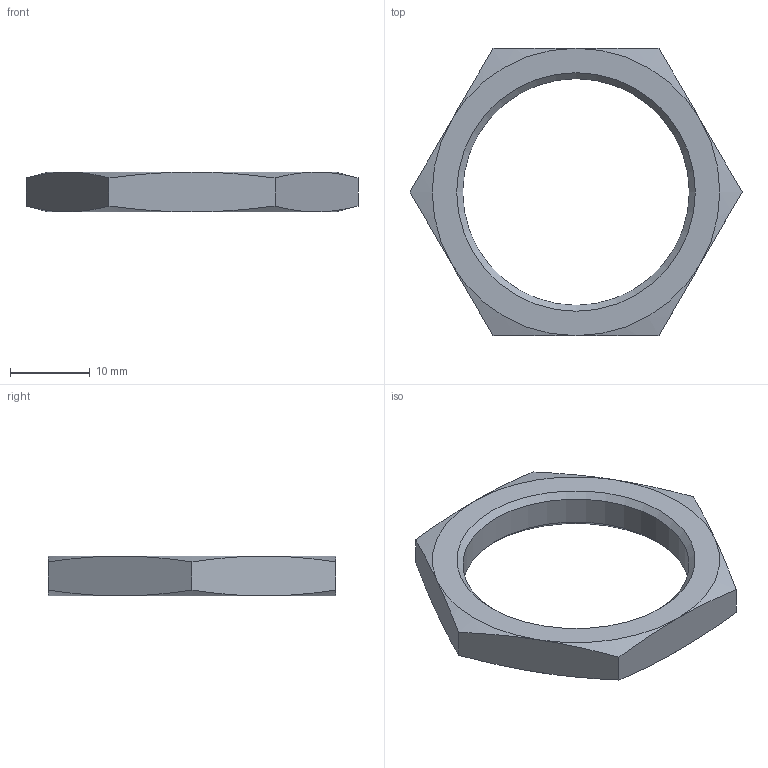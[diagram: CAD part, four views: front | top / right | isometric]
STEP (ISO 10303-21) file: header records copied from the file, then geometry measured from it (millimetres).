
FILE_DESCRIPTION( ( 'STEP AP214' ), '1' );
FILE_NAME( 'N:/Engineering/CAD_Solid/Wirbelstrom/Wirbelstromsensoren/Muttern/Mutter_M30x1,5.stp', '2011-12-15T12:06:33', ( ' ' ), ( ' ' ), 'XStep 1.0', ' ', ' ' );
FILE_SCHEMA( ( 'CONFIG_CONTROL_DESIGN) ( )' ) );
Length unit declared in the file: metre
Products named in the file (1): 1
Bounding box: 41.57 x 36 x 5 mm (x, y, z)
Volume: 2351.7 mm3; surface area: 1915.9 mm2
Topology: 1 solids, 1 shells, 23 faces, 49 edges, 28 vertices
Faces by surface type: cone 14, plane 8, cylinder 1
Full cylindrical faces by diameter (mm): 28.376 x1
Entity records: 868 total; most frequent: CARTESIAN_POINT 218, ORIENTED_EDGE 92, DIRECTION 86, EDGE_CURVE 46, AXIS2_PLACEMENT_3D 40, EDGE_LOOP 28, VERTEX_POINT 28, FACE_OUTER_BOUND 24
